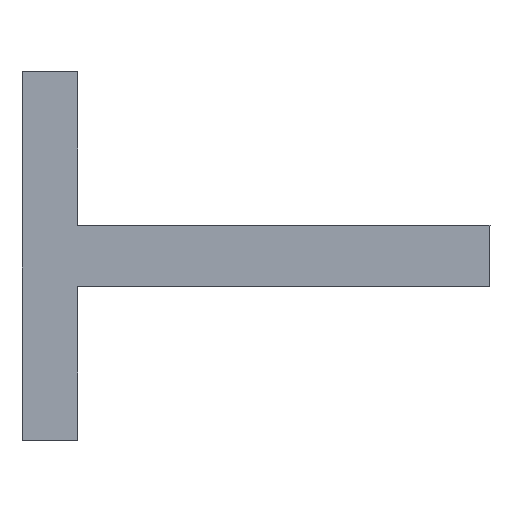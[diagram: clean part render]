
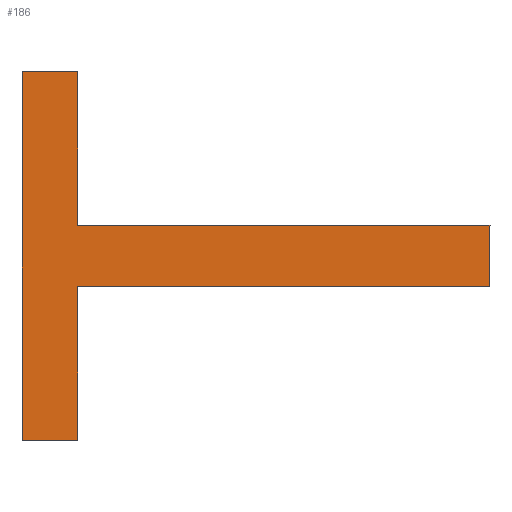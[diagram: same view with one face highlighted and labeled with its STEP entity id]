
A CAD part, top view. The second image highlights one B-rep face of the part: STEP entity #186.
In plain terms, the highlighted planar face has unit normal (0, 0, 1).
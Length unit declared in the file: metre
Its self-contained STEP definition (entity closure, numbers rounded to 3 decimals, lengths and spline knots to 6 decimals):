
#44=ORIENTED_EDGE('',*,*,#83,.T.);
#45=ORIENTED_EDGE('',*,*,#81,.T.);
#46=ORIENTED_EDGE('',*,*,#78,.T.);
#47=ORIENTED_EDGE('',*,*,#75,.T.);
#48=ORIENTED_EDGE('',*,*,#72,.T.);
#49=ORIENTED_EDGE('',*,*,#69,.T.);
#50=ORIENTED_EDGE('',*,*,#66,.T.);
#51=ORIENTED_EDGE('',*,*,#63,.T.);
#63=EDGE_CURVE('',#84,#87,#103,.T.);
#66=EDGE_CURVE('',#88,#84,#106,.F.);
#69=EDGE_CURVE('',#90,#88,#109,.F.);
#72=EDGE_CURVE('',#92,#90,#112,.F.);
#75=EDGE_CURVE('',#94,#92,#115,.F.);
#78=EDGE_CURVE('',#96,#94,#118,.T.);
#81=EDGE_CURVE('',#98,#96,#121,.T.);
#83=EDGE_CURVE('',#87,#98,#123,.F.);
#84=VERTEX_POINT('',#252);
#87=VERTEX_POINT('',#257);
#88=VERTEX_POINT('',#261);
#90=VERTEX_POINT('',#267);
#92=VERTEX_POINT('',#273);
#94=VERTEX_POINT('',#279);
#96=VERTEX_POINT('',#285);
#98=VERTEX_POINT('',#291);
#103=LINE('',#258,#127);
#106=LINE('',#264,#130);
#109=LINE('',#270,#133);
#112=LINE('',#276,#136);
#115=LINE('',#282,#139);
#118=LINE('',#288,#142);
#121=LINE('',#294,#145);
#123=LINE('',#297,#147);
#127=VECTOR('',#210,1.);
#130=VECTOR('',#215,1.);
#133=VECTOR('',#220,1.);
#136=VECTOR('',#225,1.);
#139=VECTOR('',#230,1.);
#142=VECTOR('',#235,1.);
#145=VECTOR('',#240,1.);
#147=VECTOR('',#244,1.);
#156=EDGE_LOOP('',(#44,#45,#46,#47,#48,#49,#50,#51));
#166=FACE_BOUND('',#156,.T.);
#176=PLANE('',#201);
#186=ADVANCED_FACE('',(#166),#176,.F.);
#201=AXIS2_PLACEMENT_3D('',#298,#245,#246);
#210=DIRECTION('',(-1.,0.,0.));
#215=DIRECTION('',(0.,-1.,0.));
#220=DIRECTION('',(-1.,0.,0.));
#225=DIRECTION('',(0.,-1.,0.));
#230=DIRECTION('',(-1.,0.,0.));
#235=DIRECTION('',(0.,-1.,0.));
#240=DIRECTION('',(-1.,0.,0.));
#244=DIRECTION('',(0.,-1.,0.));
#245=DIRECTION('',(0.,0.,-1.));
#246=DIRECTION('',(0.,-1.,0.));
#252=CARTESIAN_POINT('',(-0.012988,0.004059,-0.03));
#257=CARTESIAN_POINT('',(-0.013812,0.004059,-0.03));
#258=CARTESIAN_POINT('',(-0.013607,0.004059,-0.03));
#261=CARTESIAN_POINT('',(-0.012988,0.003936,-0.03));
#264=CARTESIAN_POINT('',(-0.012988,0.003997,-0.03));
#267=CARTESIAN_POINT('',(-0.013812,0.003936,-0.03));
#270=CARTESIAN_POINT('',(-0.013607,0.003936,-0.03));
#273=CARTESIAN_POINT('',(-0.013812,0.003629,-0.03));
#276=CARTESIAN_POINT('',(-0.013812,0.003997,-0.03));
#279=CARTESIAN_POINT('',(-0.013923,0.003629,-0.03));
#282=CARTESIAN_POINT('',(-0.013607,0.003629,-0.03));
#285=CARTESIAN_POINT('',(-0.013923,0.004366,-0.03));
#288=CARTESIAN_POINT('',(-0.013923,0.003997,-0.03));
#291=CARTESIAN_POINT('',(-0.013812,0.004366,-0.03));
#294=CARTESIAN_POINT('',(-0.013607,0.004366,-0.03));
#297=CARTESIAN_POINT('',(-0.013812,0.003997,-0.03));
#298=CARTESIAN_POINT('',(-0.013607,0.003997,-0.03));
